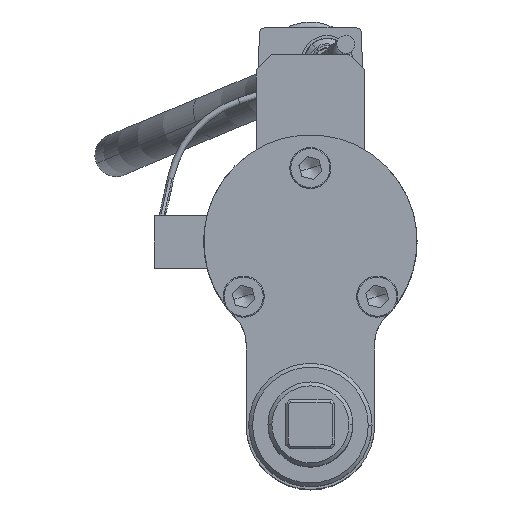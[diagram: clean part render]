
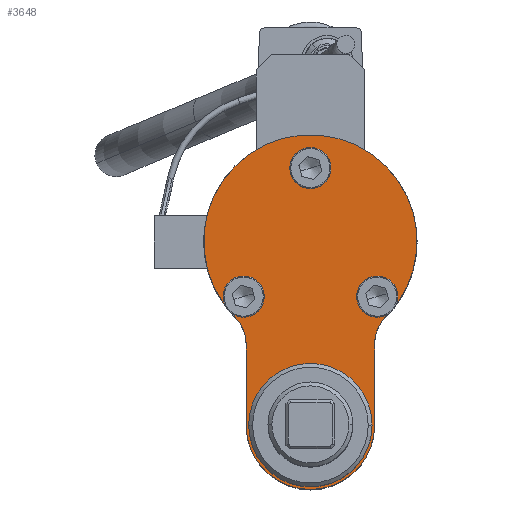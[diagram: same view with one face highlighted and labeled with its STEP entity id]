
A CAD part, top view. The second image highlights one B-rep face of the part: STEP entity #3648.
In plain terms, the highlighted planar face has unit normal (0, 0, 1).
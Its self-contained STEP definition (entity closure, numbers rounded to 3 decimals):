
#3384=AXIS2_PLACEMENT_3D('Circle Axis2P3D',#3382,#3383,$) ;
#3410=AXIS2_PLACEMENT_3D('Circle Axis2P3D',#3408,#3409,$) ;
#3513=AXIS2_PLACEMENT_3D('Circle Axis2P3D',#3511,#3512,$) ;
#3539=AXIS2_PLACEMENT_3D('Circle Axis2P3D',#3537,#3538,$) ;
#3552=AXIS2_PLACEMENT_3D('Plane Axis2P3D',#3549,#3550,#3551) ;
#3556=AXIS2_PLACEMENT_3D('Circle Axis2P3D',#3554,#3555,$) ;
#3565=AXIS2_PLACEMENT_3D('Circle Axis2P3D',#3563,#3564,$) ;
#3579=AXIS2_PLACEMENT_3D('Circle Axis2P3D',#3577,#3578,$) ;
#3593=AXIS2_PLACEMENT_3D('Circle Axis2P3D',#3591,#3592,$) ;
#3606=AXIS2_PLACEMENT_3D('Circle Axis2P3D',#3604,#3605,$) ;
#3615=AXIS2_PLACEMENT_3D('Circle Axis2P3D',#3613,#3614,$) ;
#3628=AXIS2_PLACEMENT_3D('Circle Axis2P3D',#3626,#3627,$) ;
#3637=AXIS2_PLACEMENT_3D('Circle Axis2P3D',#3635,#3636,$) ;
#3382=CARTESIAN_POINT('Axis2P3D Location',(26.,-21.5,620.1)) ;
#3386=CARTESIAN_POINT('Vertex',(21.447,-19.013,620.1)) ;
#3388=CARTESIAN_POINT('Vertex',(30.553,-23.987,620.1)) ;
#3408=CARTESIAN_POINT('Axis2P3D Location',(26.,-21.5,620.1)) ;
#3511=CARTESIAN_POINT('Axis2P3D Location',(-26.,-21.5,620.1)) ;
#3515=CARTESIAN_POINT('Vertex',(-30.553,-19.013,620.1)) ;
#3517=CARTESIAN_POINT('Vertex',(-21.447,-23.987,620.1)) ;
#3537=CARTESIAN_POINT('Axis2P3D Location',(-26.,-21.5,620.1)) ;
#3549=CARTESIAN_POINT('Axis2P3D Location',(0.,0.,620.1)) ;
#3554=CARTESIAN_POINT('Axis2P3D Location',(0.,0.,620.1)) ;
#3558=CARTESIAN_POINT('Vertex',(29.381,-29.309,620.1)) ;
#3560=CARTESIAN_POINT('Vertex',(-29.381,-29.309,620.1)) ;
#3563=CARTESIAN_POINT('Axis2P3D Location',(-40.,-39.903,620.1)) ;
#3567=CARTESIAN_POINT('Vertex',(-25.,-39.903,620.1)) ;
#3570=CARTESIAN_POINT('Line Origine',(-25.,-55.702,620.1)) ;
#3574=CARTESIAN_POINT('Vertex',(-25.,-71.5,620.1)) ;
#3577=CARTESIAN_POINT('Axis2P3D Location',(0.,-71.5,620.1)) ;
#3581=CARTESIAN_POINT('Vertex',(25.,-71.5,620.1)) ;
#3584=CARTESIAN_POINT('Line Origine',(25.,-55.702,620.1)) ;
#3588=CARTESIAN_POINT('Vertex',(25.,-39.903,620.1)) ;
#3591=CARTESIAN_POINT('Axis2P3D Location',(40.,-39.903,620.1)) ;
#3604=CARTESIAN_POINT('Axis2P3D Location',(0.,28.5,620.1)) ;
#3608=CARTESIAN_POINT('Vertex',(-4.553,30.987,620.1)) ;
#3610=CARTESIAN_POINT('Vertex',(4.553,26.013,620.1)) ;
#3613=CARTESIAN_POINT('Axis2P3D Location',(0.,28.5,620.1)) ;
#3626=CARTESIAN_POINT('Axis2P3D Location',(0.,-71.5,620.1)) ;
#3630=CARTESIAN_POINT('Vertex',(24.,-71.5,620.1)) ;
#3632=CARTESIAN_POINT('Vertex',(-24.,-71.5,620.1)) ;
#3635=CARTESIAN_POINT('Axis2P3D Location',(0.,-71.5,620.1)) ;
#3383=DIRECTION('Axis2P3D Direction',(-0.,0.,1.)) ;
#3409=DIRECTION('Axis2P3D Direction',(-0.,0.,1.)) ;
#3512=DIRECTION('Axis2P3D Direction',(-0.,0.,1.)) ;
#3538=DIRECTION('Axis2P3D Direction',(-0.,0.,1.)) ;
#3550=DIRECTION('Axis2P3D Direction',(-0.,0.,1.)) ;
#3551=DIRECTION('Axis2P3D XDirection',(1.,0.,0.)) ;
#3555=DIRECTION('Axis2P3D Direction',(-0.,0.,1.)) ;
#3564=DIRECTION('Axis2P3D Direction',(-0.,0.,1.)) ;
#3571=DIRECTION('Vector Direction',(0.,1.,0.)) ;
#3578=DIRECTION('Axis2P3D Direction',(-0.,0.,1.)) ;
#3585=DIRECTION('Vector Direction',(0.,1.,0.)) ;
#3592=DIRECTION('Axis2P3D Direction',(-0.,0.,1.)) ;
#3605=DIRECTION('Axis2P3D Direction',(-0.,0.,1.)) ;
#3614=DIRECTION('Axis2P3D Direction',(-0.,0.,1.)) ;
#3627=DIRECTION('Axis2P3D Direction',(-0.,0.,1.)) ;
#3636=DIRECTION('Axis2P3D Direction',(-0.,0.,1.)) ;
#3572=VECTOR('Line Direction',#3571,1.) ;
#3586=VECTOR('Line Direction',#3585,1.) ;
#3597=ORIENTED_EDGE('',*,*,#3562,.T.) ;
#3598=ORIENTED_EDGE('',*,*,#3569,.T.) ;
#3599=ORIENTED_EDGE('',*,*,#3576,.T.) ;
#3600=ORIENTED_EDGE('',*,*,#3583,.T.) ;
#3601=ORIENTED_EDGE('',*,*,#3590,.T.) ;
#3602=ORIENTED_EDGE('',*,*,#3595,.T.) ;
#3619=ORIENTED_EDGE('',*,*,#3612,.F.) ;
#3620=ORIENTED_EDGE('',*,*,#3617,.F.) ;
#3623=ORIENTED_EDGE('',*,*,#3519,.F.) ;
#3624=ORIENTED_EDGE('',*,*,#3541,.F.) ;
#3641=ORIENTED_EDGE('',*,*,#3634,.F.) ;
#3642=ORIENTED_EDGE('',*,*,#3639,.F.) ;
#3645=ORIENTED_EDGE('',*,*,#3390,.F.) ;
#3646=ORIENTED_EDGE('',*,*,#3412,.F.) ;
#3621=FACE_BOUND('',#3618,.T.) ;
#3625=FACE_BOUND('',#3622,.T.) ;
#3643=FACE_BOUND('',#3640,.T.) ;
#3647=FACE_BOUND('',#3644,.T.) ;
#3648=ADVANCED_FACE('AOD-350-300.1\\AOD350-300.1\\Hauptk\X2\00F6\X0\rper',(#3603,#3621,#3625,#3643,#3647),#3553,.T.) ;
#3385=CIRCLE('generated circle',#3384,5.188) ;
#3411=CIRCLE('generated circle',#3410,5.188) ;
#3514=CIRCLE('generated circle',#3513,5.188) ;
#3540=CIRCLE('generated circle',#3539,5.188) ;
#3557=CIRCLE('generated circle',#3556,41.5) ;
#3566=CIRCLE('generated circle',#3565,15.) ;
#3580=CIRCLE('generated circle',#3579,25.) ;
#3594=CIRCLE('generated circle',#3593,15.) ;
#3607=CIRCLE('generated circle',#3606,5.188) ;
#3616=CIRCLE('generated circle',#3615,5.188) ;
#3629=CIRCLE('generated circle',#3628,24.) ;
#3638=CIRCLE('generated circle',#3637,24.) ;
#3390=EDGE_CURVE('',#3387,#3389,#3385,.T.) ;
#3412=EDGE_CURVE('',#3389,#3387,#3411,.T.) ;
#3519=EDGE_CURVE('',#3516,#3518,#3514,.T.) ;
#3541=EDGE_CURVE('',#3518,#3516,#3540,.T.) ;
#3562=EDGE_CURVE('',#3559,#3561,#3557,.T.) ;
#3569=EDGE_CURVE('',#3561,#3568,#3566,.F.) ;
#3576=EDGE_CURVE('',#3568,#3575,#3573,.F.) ;
#3583=EDGE_CURVE('',#3575,#3582,#3580,.T.) ;
#3590=EDGE_CURVE('',#3582,#3589,#3587,.T.) ;
#3595=EDGE_CURVE('',#3589,#3559,#3594,.F.) ;
#3612=EDGE_CURVE('',#3609,#3611,#3607,.T.) ;
#3617=EDGE_CURVE('',#3611,#3609,#3616,.T.) ;
#3634=EDGE_CURVE('',#3631,#3633,#3629,.T.) ;
#3639=EDGE_CURVE('',#3633,#3631,#3638,.T.) ;
#3596=EDGE_LOOP('',(#3597,#3598,#3599,#3600,#3601,#3602)) ;
#3618=EDGE_LOOP('',(#3619,#3620)) ;
#3622=EDGE_LOOP('',(#3623,#3624)) ;
#3640=EDGE_LOOP('',(#3641,#3642)) ;
#3644=EDGE_LOOP('',(#3645,#3646)) ;
#3603=FACE_OUTER_BOUND('',#3596,.T.) ;
#3573=LINE('Line',#3570,#3572) ;
#3587=LINE('Line',#3584,#3586) ;
#3553=PLANE('Plane',#3552) ;
#3387=VERTEX_POINT('',#3386) ;
#3389=VERTEX_POINT('',#3388) ;
#3516=VERTEX_POINT('',#3515) ;
#3518=VERTEX_POINT('',#3517) ;
#3559=VERTEX_POINT('',#3558) ;
#3561=VERTEX_POINT('',#3560) ;
#3568=VERTEX_POINT('',#3567) ;
#3575=VERTEX_POINT('',#3574) ;
#3582=VERTEX_POINT('',#3581) ;
#3589=VERTEX_POINT('',#3588) ;
#3609=VERTEX_POINT('',#3608) ;
#3611=VERTEX_POINT('',#3610) ;
#3631=VERTEX_POINT('',#3630) ;
#3633=VERTEX_POINT('',#3632) ;
